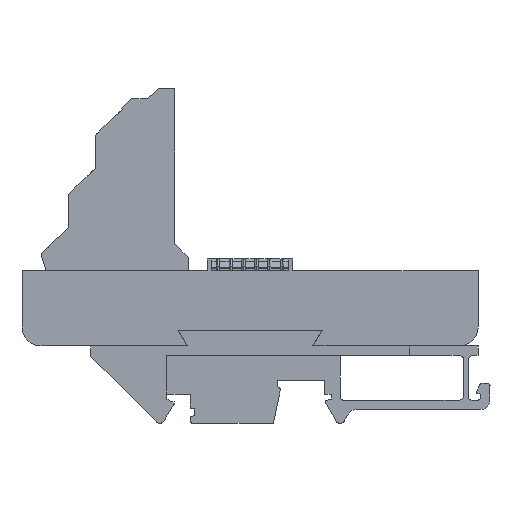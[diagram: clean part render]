
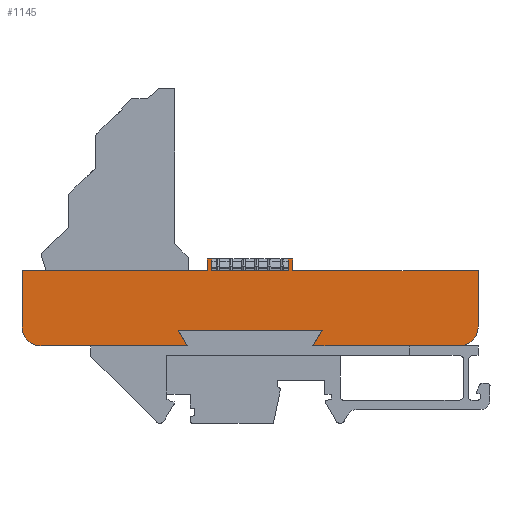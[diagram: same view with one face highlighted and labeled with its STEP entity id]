
A CAD part, front view. The second image highlights one B-rep face of the part: STEP entity #1145.
In plain terms, the highlighted planar face has unit normal (0, -1, 0).
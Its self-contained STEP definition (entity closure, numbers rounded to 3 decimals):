
#439=CIRCLE('',#17096,4.);
#441=CIRCLE('',#17102,4.);
#1145=ADVANCED_FACE('F188',(#2662),#1937,.T.);
#1937=PLANE('',#17110);
#2662=FACE_OUTER_BOUND('',#3548,.T.);
#3548=EDGE_LOOP('',(#5375,#5376,#5377,#5378,#5379,#5380,#5381,#5382,#5383,
#5384,#5385,#5386,#5387,#5388,#5389,#5390,#5391,#5392));
#5375=ORIENTED_EDGE('',*,*,#11354,.T.);
#5376=ORIENTED_EDGE('',*,*,#11321,.T.);
#5377=ORIENTED_EDGE('',*,*,#11061,.T.);
#5378=ORIENTED_EDGE('',*,*,#11093,.F.);
#5379=ORIENTED_EDGE('',*,*,#11323,.F.);
#5380=ORIENTED_EDGE('',*,*,#11326,.F.);
#5381=ORIENTED_EDGE('',*,*,#10716,.F.);
#5382=ORIENTED_EDGE('',*,*,#11331,.F.);
#5383=ORIENTED_EDGE('',*,*,#11334,.F.);
#5384=ORIENTED_EDGE('',*,*,#11340,.F.);
#5385=ORIENTED_EDGE('',*,*,#10723,.F.);
#5386=ORIENTED_EDGE('',*,*,#11342,.F.);
#5387=ORIENTED_EDGE('',*,*,#11346,.F.);
#5388=ORIENTED_EDGE('',*,*,#11094,.F.);
#5389=ORIENTED_EDGE('',*,*,#11054,.T.);
#5390=ORIENTED_EDGE('',*,*,#11348,.T.);
#5391=ORIENTED_EDGE('',*,*,#11351,.T.);
#5392=ORIENTED_EDGE('',*,*,#11353,.F.);
#9146=VERTEX_POINT('',#22034);
#9147=VERTEX_POINT('',#22036);
#9153=VERTEX_POINT('',#22049);
#9154=VERTEX_POINT('',#22051);
#9414=VERTEX_POINT('',#22783);
#9416=VERTEX_POINT('',#22787);
#9419=VERTEX_POINT('',#22800);
#9420=VERTEX_POINT('',#22802);
#9446=VERTEX_POINT('',#22897);
#9447=VERTEX_POINT('',#22900);
#9563=VERTEX_POINT('',#23945);
#9564=VERTEX_POINT('',#23949);
#9568=VERTEX_POINT('',#23962);
#9570=VERTEX_POINT('',#23969);
#9574=VERTEX_POINT('',#23983);
#9576=VERTEX_POINT('',#23993);
#9577=VERTEX_POINT('',#23997);
#9578=VERTEX_POINT('',#24001);
#10716=EDGE_CURVE('E49',#9146,#9147,#13172,.T.);
#10723=EDGE_CURVE('E57',#9153,#9154,#13179,.T.);
#11054=EDGE_CURVE('E502',#9414,#9416,#13386,.T.);
#11061=EDGE_CURVE('E503',#9420,#9419,#13393,.T.);
#11093=EDGE_CURVE('',#9446,#9419,#13418,.T.);
#11094=EDGE_CURVE('',#9414,#9447,#13419,.T.);
#11321=EDGE_CURVE('E228',#9563,#9420,#13519,.T.);
#11323=EDGE_CURVE('E17',#9564,#9446,#13521,.T.);
#11326=EDGE_CURVE('E52',#9147,#9564,#439,.T.);
#11331=EDGE_CURVE('E46',#9568,#9146,#13527,.T.);
#11334=EDGE_CURVE('E43',#9570,#9568,#13530,.T.);
#11340=EDGE_CURVE('E39',#9154,#9570,#13536,.T.);
#11342=EDGE_CURVE('E54',#9574,#9153,#441,.T.);
#11346=EDGE_CURVE('E1',#9447,#9574,#13540,.T.);
#11348=EDGE_CURVE('E224',#9416,#9576,#13542,.T.);
#11351=EDGE_CURVE('E467',#9576,#9577,#13545,.T.);
#11353=EDGE_CURVE('E453',#9578,#9577,#13547,.T.);
#11354=EDGE_CURVE('E470',#9578,#9563,#13548,.T.);
#13172=LINE('',#22035,#14976);
#13179=LINE('',#22050,#14983);
#13386=LINE('',#22788,#15190);
#13393=LINE('',#22801,#15197);
#13418=LINE('',#22898,#15222);
#13419=LINE('',#22899,#15223);
#13519=LINE('',#23944,#15323);
#13521=LINE('',#23948,#15325);
#13527=LINE('',#23963,#15331);
#13530=LINE('',#23968,#15334);
#13536=LINE('',#23979,#15340);
#13540=LINE('',#23989,#15344);
#13542=LINE('',#23992,#15346);
#13545=LINE('',#23998,#15349);
#13547=LINE('',#24002,#15351);
#13548=LINE('',#24004,#15352);
#14976=VECTOR('',#17930,1.);
#14983=VECTOR('',#17939,1.);
#15190=VECTOR('',#18442,1.);
#15197=VECTOR('',#18455,1.);
#15222=VECTOR('',#18506,1.);
#15223=VECTOR('',#18507,1.);
#15323=VECTOR('',#18913,1.);
#15325=VECTOR('',#18917,1.);
#15331=VECTOR('',#18931,1.);
#15334=VECTOR('',#18936,1.);
#15340=VECTOR('',#18944,1.);
#15344=VECTOR('',#18956,1.);
#15346=VECTOR('',#18960,1.);
#15349=VECTOR('',#18965,1.);
#15351=VECTOR('',#18969,1.);
#15352=VECTOR('',#18972,1.);
#17096=AXIS2_PLACEMENT_3D('',#23954,#18922,#18923);
#17102=AXIS2_PLACEMENT_3D('',#23982,#18948,#18949);
#17110=AXIS2_PLACEMENT_3D('',#24006,#18975,#18976);
#17930=DIRECTION('',(-1.,0.,0.));
#17939=DIRECTION('',(-1.,0.,0.));
#18442=DIRECTION('',(0.,0.,1.));
#18455=DIRECTION('',(0.,0.,-1.));
#18506=DIRECTION('',(1.,0.,0.));
#18507=DIRECTION('',(1.,0.,0.));
#18913=DIRECTION('',(-1.,0.,0.));
#18917=DIRECTION('',(0.,0.,1.));
#18922=DIRECTION('',(0.,1.,0.));
#18923=DIRECTION('',(-1.,0.,0.));
#18931=DIRECTION('',(0.5,0.,-0.866));
#18936=DIRECTION('',(-1.,0.,0.));
#18944=DIRECTION('',(0.5,0.,0.866));
#18948=DIRECTION('',(0.,1.,0.));
#18949=DIRECTION('',(-1.,0.,0.));
#18956=DIRECTION('',(0.,0.,-1.));
#18960=DIRECTION('',(-1.,0.,0.));
#18965=DIRECTION('',(0.,0.,-1.));
#18969=DIRECTION('',(1.,0.,0.));
#18972=DIRECTION('',(0.,0.,1.));
#18975=DIRECTION('',(0.,-1.,0.));
#18976=DIRECTION('',(-1.,0.,0.));
#22034=CARTESIAN_POINT('',(-13.245,-25.6,-8.5));
#22035=CARTESIAN_POINT('',(-28.622,-25.6,-8.5));
#22036=CARTESIAN_POINT('',(-44.,-25.6,-8.5));
#22049=CARTESIAN_POINT('',(44.,-25.6,-8.5));
#22050=CARTESIAN_POINT('',(28.622,-25.6,-8.5));
#22051=CARTESIAN_POINT('',(13.245,-25.6,-8.5));
#22783=CARTESIAN_POINT('',(9.,-25.6,7.3));
#22787=CARTESIAN_POINT('',(9.,-25.6,9.8));
#22788=CARTESIAN_POINT('',(9.,-25.6,8.55));
#22800=CARTESIAN_POINT('',(-9.,-25.6,7.3));
#22801=CARTESIAN_POINT('',(-9.,-25.6,8.55));
#22802=CARTESIAN_POINT('',(-9.,-25.6,9.8));
#22897=CARTESIAN_POINT('',(-48.,-25.6,7.3));
#22898=CARTESIAN_POINT('',(-28.5,-25.6,7.3));
#22899=CARTESIAN_POINT('',(28.5,-25.6,7.3));
#22900=CARTESIAN_POINT('',(48.,-25.6,7.3));
#23944=CARTESIAN_POINT('',(-8.525,-25.6,9.8));
#23945=CARTESIAN_POINT('',(-8.05,-25.6,9.8));
#23948=CARTESIAN_POINT('',(-48.,-25.6,1.4));
#23949=CARTESIAN_POINT('',(-48.,-25.6,-4.5));
#23954=CARTESIAN_POINT('',(-44.,-25.6,-4.5));
#23962=CARTESIAN_POINT('',(-15.15,-25.6,-5.2));
#23963=CARTESIAN_POINT('',(-14.197,-25.6,-6.85));
#23968=CARTESIAN_POINT('',(0.,-25.6,-5.2));
#23969=CARTESIAN_POINT('',(15.15,-25.6,-5.2));
#23979=CARTESIAN_POINT('',(14.197,-25.6,-6.85));
#23982=CARTESIAN_POINT('',(44.,-25.6,-4.5));
#23983=CARTESIAN_POINT('',(48.,-25.6,-4.5));
#23989=CARTESIAN_POINT('',(48.,-25.6,1.4));
#23992=CARTESIAN_POINT('',(8.525,-25.6,9.8));
#23993=CARTESIAN_POINT('',(8.05,-25.6,9.8));
#23997=CARTESIAN_POINT('',(8.05,-25.6,7.3));
#23998=CARTESIAN_POINT('',(8.05,-25.6,8.55));
#24001=CARTESIAN_POINT('',(-8.05,-25.6,7.3));
#24002=CARTESIAN_POINT('',(0.,-25.6,7.3));
#24004=CARTESIAN_POINT('',(-8.05,-25.6,8.55));
#24006=CARTESIAN_POINT('',(53.,-25.6,10.1));
